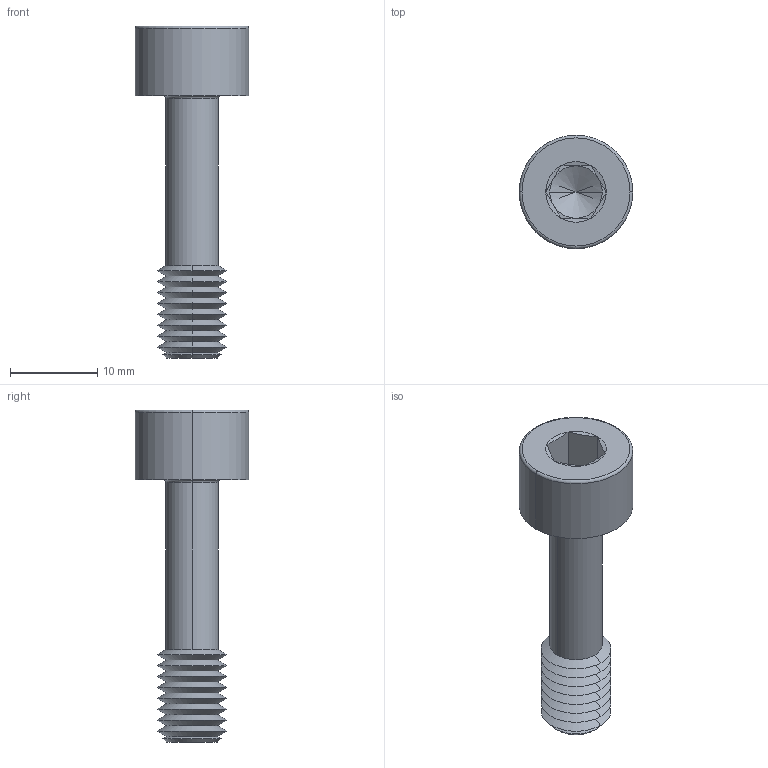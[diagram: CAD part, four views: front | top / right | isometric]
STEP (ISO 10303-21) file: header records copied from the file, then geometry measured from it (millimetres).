
FILE_DESCRIPTION (( 'STEP AP203' ), '1' );
FILE_NAME ('P0154.080-030-BL.step', '2024-06-17T11:31:34', ( '' ), ( '' ), 'SwSTEP 2.0', 'SolidWorks 2019', '' );
FILE_SCHEMA (( 'CONFIG_CONTROL_DESIGN' ));
Length unit declared in the file: millimetre
Products named in the file (1): P0154.080-030-BL
Bounding box: 13 x 13 x 38 mm (x, y, z)
Volume: 1803.6 mm3; surface area: 1529.6 mm2
Topology: 1 solids, 1 shells, 67 faces, 136 edges, 71 vertices
Faces by surface type: cone 44, plane 15, torus 4, cylinder 4
Entity records: 1787 total; most frequent: DIRECTION 332, CARTESIAN_POINT 299, ORIENTED_EDGE 268, AXIS2_PLACEMENT_3D 136, EDGE_CURVE 134, VERTEX_POINT 71, EDGE_LOOP 69, CIRCLE 68
